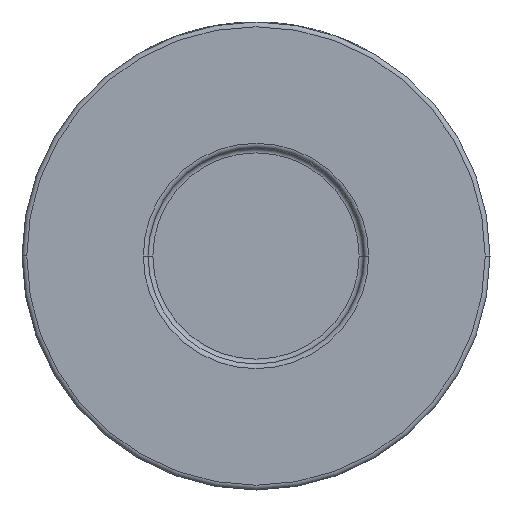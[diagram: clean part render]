
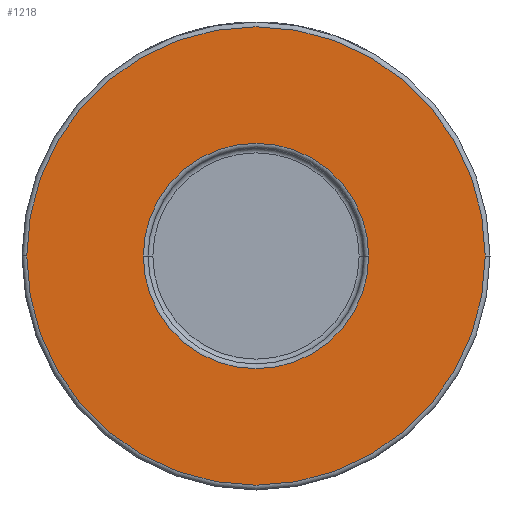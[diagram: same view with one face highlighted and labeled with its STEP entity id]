
A CAD part, front view. The second image highlights one B-rep face of the part: STEP entity #1218.
In plain terms, the highlighted planar face has unit normal (0, -1, 0).
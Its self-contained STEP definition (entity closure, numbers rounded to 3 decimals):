
#81 = CIRCLE ( 'NONE', #3398, 48. ) ;
#124 = AXIS2_PLACEMENT_3D ( 'NONE', #4041, #1843, #778 ) ;
#190 = ORIENTED_EDGE ( 'NONE', *, *, #1844, .T. ) ;
#264 = CARTESIAN_POINT ( 'NONE',  ( 0., -32., 0. ) ) ;
#277 = ORIENTED_EDGE ( 'NONE', *, *, #4219, .T. ) ;
#499 = CIRCLE ( 'NONE', #124, 23.6 ) ;
#617 = DIRECTION ( 'NONE',  ( 0., -1., 0. ) ) ;
#628 = EDGE_LOOP ( 'NONE', ( #190, #277 ) ) ;
#778 = DIRECTION ( 'NONE',  ( 1., 0., 0. ) ) ;
#781 = CARTESIAN_POINT ( 'NONE',  ( -23.6, -32., 0. ) ) ;
#795 = AXIS2_PLACEMENT_3D ( 'NONE', #264, #617, #2129 ) ;
#801 = CARTESIAN_POINT ( 'NONE',  ( 23.6, -32., 0. ) ) ;
#802 = EDGE_CURVE ( 'NONE', #1597, #3008, #81, .T. ) ;
#834 = VERTEX_POINT ( 'NONE', #781 ) ;
#996 = CARTESIAN_POINT ( 'NONE',  ( 0., -32., 0. ) ) ;
#1218 = ADVANCED_FACE ( 'NONE', ( #2215, #1506 ), #1817, .T. ) ;
#1460 = CARTESIAN_POINT ( 'NONE',  ( 49., -32., 0. ) ) ;
#1506 = FACE_OUTER_BOUND ( 'NONE', #2287, .T. ) ;
#1597 = VERTEX_POINT ( 'NONE', #3334 ) ;
#1613 = DIRECTION ( 'NONE',  ( 1., 0., 0. ) ) ;
#1775 = DIRECTION ( 'NONE',  ( 0., 1., 0. ) ) ;
#1817 = PLANE ( 'NONE',  #3667 ) ;
#1843 = DIRECTION ( 'NONE',  ( 0., 1., 0. ) ) ;
#1844 = EDGE_CURVE ( 'NONE', #1868, #834, #499, .T. ) ;
#1868 = VERTEX_POINT ( 'NONE', #801 ) ;
#1903 = DIRECTION ( 'NONE',  ( 0., -1., 0. ) ) ;
#2129 = DIRECTION ( 'NONE',  ( 1., 0., 0. ) ) ;
#2138 = EDGE_CURVE ( 'NONE', #3008, #1597, #2849, .T. ) ;
#2184 = ORIENTED_EDGE ( 'NONE', *, *, #2138, .T. ) ;
#2215 = FACE_BOUND ( 'NONE', #628, .T. ) ;
#2287 = EDGE_LOOP ( 'NONE', ( #3821, #2184 ) ) ;
#2603 = CIRCLE ( 'NONE', #4332, 23.6 ) ;
#2849 = CIRCLE ( 'NONE', #795, 48. ) ;
#3008 = VERTEX_POINT ( 'NONE', #4409 ) ;
#3038 = DIRECTION ( 'NONE',  ( 0., -1., 0. ) ) ;
#3332 = CARTESIAN_POINT ( 'NONE',  ( 0., -32., 0. ) ) ;
#3334 = CARTESIAN_POINT ( 'NONE',  ( 48., -32., 0. ) ) ;
#3398 = AXIS2_PLACEMENT_3D ( 'NONE', #3332, #3038, #1613 ) ;
#3501 = DIRECTION ( 'NONE',  ( 1., 0., 0. ) ) ;
#3627 = DIRECTION ( 'NONE',  ( 1., 0., 0. ) ) ;
#3667 = AXIS2_PLACEMENT_3D ( 'NONE', #1460, #1903, #3627 ) ;
#3821 = ORIENTED_EDGE ( 'NONE', *, *, #802, .T. ) ;
#4041 = CARTESIAN_POINT ( 'NONE',  ( 0., -32., 0. ) ) ;
#4219 = EDGE_CURVE ( 'NONE', #834, #1868, #2603, .T. ) ;
#4332 = AXIS2_PLACEMENT_3D ( 'NONE', #996, #1775, #3501 ) ;
#4409 = CARTESIAN_POINT ( 'NONE',  ( -48., -32., 0. ) ) ;
